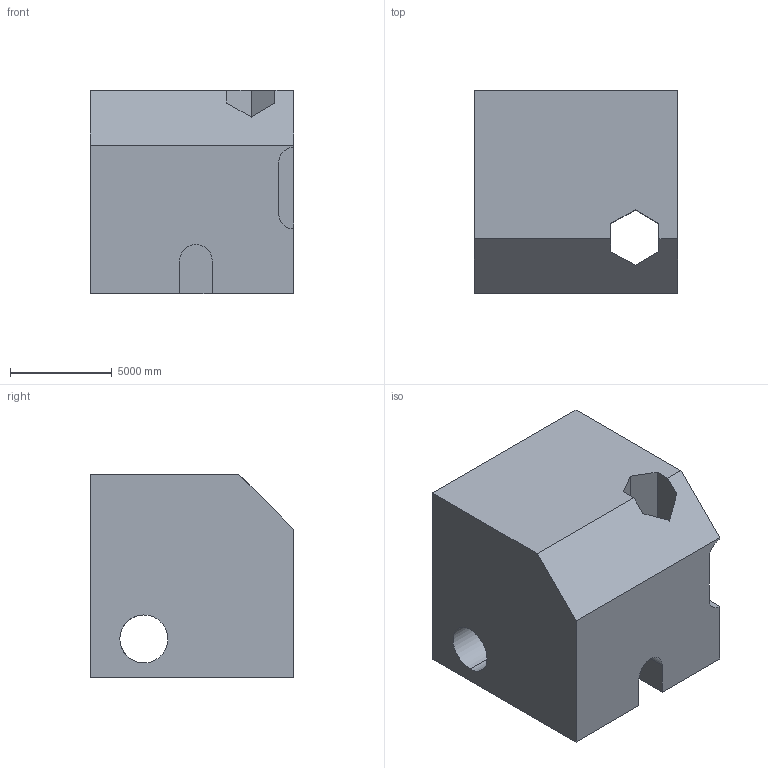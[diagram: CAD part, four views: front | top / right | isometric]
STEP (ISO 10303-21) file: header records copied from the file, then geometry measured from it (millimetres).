
FILE_DESCRIPTION (( 'STEP AP203' ), '1' );
FILE_NAME ('583.STEP', '2022-07-29T11:56:20', ( 'user' ), ( '' ), 'SwSTEP 2.0', 'SolidWorks 2021', '' );
FILE_SCHEMA (( 'CONFIG_CONTROL_DESIGN' ));
Length unit declared in the file: centimetre
Products named in the file (1): 583
Bounding box: 10000 x 10000 x 10000 mm (x, y, z)
Volume: 839688305971.8 mm3; surface area: 733528233.8 mm2
Topology: 1 solids, 1 shells, 25 faces, 75 edges, 50 vertices
Faces by surface type: plane 19, cylinder 6
Entity records: 980 total; most frequent: CARTESIAN_POINT 206, ORIENTED_EDGE 150, DIRECTION 139, EDGE_CURVE 75, LINE 61, VECTOR 61, VERTEX_POINT 50, AXIS2_PLACEMENT_3D 39
